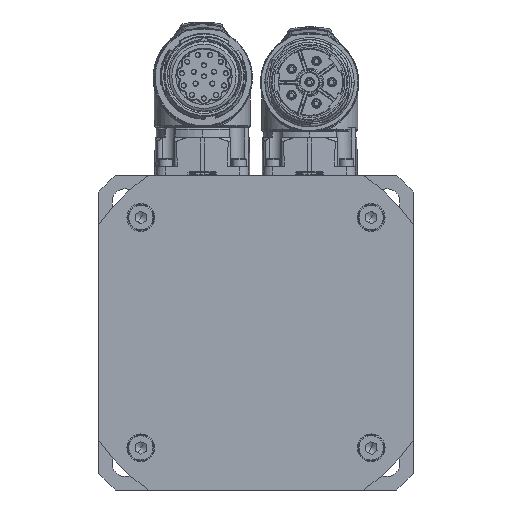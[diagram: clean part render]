
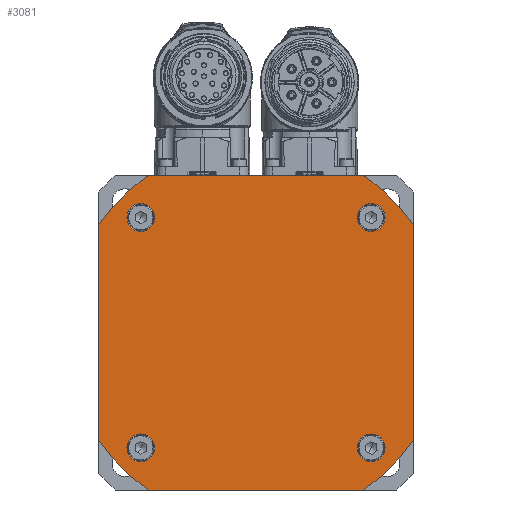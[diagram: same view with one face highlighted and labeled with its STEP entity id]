
A CAD part, left-side view. The second image highlights one B-rep face of the part: STEP entity #3081.
In plain terms, the highlighted planar face has unit normal (-1, 0, 0) as drawn and (1, 0, 0) by its records, which use the part's own axes.
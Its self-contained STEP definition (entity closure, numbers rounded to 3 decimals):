
#2938=CARTESIAN_POINT('Axis2P3D Location',(46.,0.,0.)) ;
#2943=CARTESIAN_POINT('Axis2P3D Location',(46.,0.,0.)) ;
#2947=CARTESIAN_POINT('Cartesian Point',(46.,-42.5,-29.086)) ;
#2949=CARTESIAN_POINT('Cartesian Point',(46.,-29.086,-42.5)) ;
#2952=CARTESIAN_POINT('Line Origine',(46.,0.,-42.5)) ;
#2956=CARTESIAN_POINT('Cartesian Point',(46.,29.086,-42.5)) ;
#2959=CARTESIAN_POINT('Axis2P3D Location',(46.,0.,0.)) ;
#2963=CARTESIAN_POINT('Cartesian Point',(46.,42.5,-29.086)) ;
#2966=CARTESIAN_POINT('Line Origine',(46.,42.5,0.)) ;
#2970=CARTESIAN_POINT('Cartesian Point',(46.,42.5,29.086)) ;
#2973=CARTESIAN_POINT('Axis2P3D Location',(46.,0.,0.)) ;
#2977=CARTESIAN_POINT('Cartesian Point',(46.,29.086,42.5)) ;
#2980=CARTESIAN_POINT('Line Origine',(46.,0.,42.5)) ;
#2984=CARTESIAN_POINT('Cartesian Point',(46.,-29.086,42.5)) ;
#2987=CARTESIAN_POINT('Axis2P3D Location',(46.,0.,0.)) ;
#2991=CARTESIAN_POINT('Cartesian Point',(46.,-42.5,29.086)) ;
#2994=CARTESIAN_POINT('Line Origine',(46.,-42.5,0.)) ;
#3009=CARTESIAN_POINT('Axis2P3D Location',(46.,-31.113,31.113)) ;
#3013=CARTESIAN_POINT('Cartesian Point',(46.,-34.863,31.113)) ;
#3015=CARTESIAN_POINT('Cartesian Point',(46.,-27.363,31.113)) ;
#3018=CARTESIAN_POINT('Axis2P3D Location',(46.,-31.113,31.113)) ;
#3027=CARTESIAN_POINT('Axis2P3D Location',(46.,-31.113,-31.113)) ;
#3031=CARTESIAN_POINT('Cartesian Point',(46.,-34.863,-31.113)) ;
#3033=CARTESIAN_POINT('Cartesian Point',(46.,-27.363,-31.113)) ;
#3036=CARTESIAN_POINT('Axis2P3D Location',(46.,-31.113,-31.113)) ;
#3045=CARTESIAN_POINT('Axis2P3D Location',(46.,31.113,31.113)) ;
#3049=CARTESIAN_POINT('Cartesian Point',(46.,34.863,31.113)) ;
#3051=CARTESIAN_POINT('Cartesian Point',(46.,27.363,31.113)) ;
#3054=CARTESIAN_POINT('Axis2P3D Location',(46.,31.113,31.113)) ;
#3063=CARTESIAN_POINT('Axis2P3D Location',(46.,31.113,-31.113)) ;
#3067=CARTESIAN_POINT('Cartesian Point',(46.,34.863,-31.113)) ;
#3069=CARTESIAN_POINT('Cartesian Point',(46.,27.363,-31.113)) ;
#3072=CARTESIAN_POINT('Axis2P3D Location',(46.,31.113,-31.113)) ;
#2939=DIRECTION('Axis2P3D Direction',(1.,0.,0.)) ;
#2940=DIRECTION('Axis2P3D XDirection',(0.,1.,0.)) ;
#2944=DIRECTION('Axis2P3D Direction',(1.,0.,0.)) ;
#2953=DIRECTION('Vector Direction',(0.,-1.,0.)) ;
#2960=DIRECTION('Axis2P3D Direction',(1.,0.,0.)) ;
#2967=DIRECTION('Vector Direction',(0.,0.,1.)) ;
#2974=DIRECTION('Axis2P3D Direction',(1.,0.,0.)) ;
#2981=DIRECTION('Vector Direction',(0.,1.,0.)) ;
#2988=DIRECTION('Axis2P3D Direction',(1.,0.,0.)) ;
#2995=DIRECTION('Vector Direction',(0.,0.,-1.)) ;
#3010=DIRECTION('Axis2P3D Direction',(1.,0.,0.)) ;
#3019=DIRECTION('Axis2P3D Direction',(1.,0.,0.)) ;
#3028=DIRECTION('Axis2P3D Direction',(1.,0.,0.)) ;
#3037=DIRECTION('Axis2P3D Direction',(1.,0.,0.)) ;
#3046=DIRECTION('Axis2P3D Direction',(1.,0.,0.)) ;
#3055=DIRECTION('Axis2P3D Direction',(1.,0.,0.)) ;
#3064=DIRECTION('Axis2P3D Direction',(1.,0.,0.)) ;
#3073=DIRECTION('Axis2P3D Direction',(1.,0.,0.)) ;
#2941=AXIS2_PLACEMENT_3D('Plane Axis2P3D',#2938,#2939,#2940) ;
#2945=AXIS2_PLACEMENT_3D('Circle Axis2P3D',#2943,#2944,$) ;
#2961=AXIS2_PLACEMENT_3D('Circle Axis2P3D',#2959,#2960,$) ;
#2975=AXIS2_PLACEMENT_3D('Circle Axis2P3D',#2973,#2974,$) ;
#2989=AXIS2_PLACEMENT_3D('Circle Axis2P3D',#2987,#2988,$) ;
#3011=AXIS2_PLACEMENT_3D('Circle Axis2P3D',#3009,#3010,$) ;
#3020=AXIS2_PLACEMENT_3D('Circle Axis2P3D',#3018,#3019,$) ;
#3029=AXIS2_PLACEMENT_3D('Circle Axis2P3D',#3027,#3028,$) ;
#3038=AXIS2_PLACEMENT_3D('Circle Axis2P3D',#3036,#3037,$) ;
#3047=AXIS2_PLACEMENT_3D('Circle Axis2P3D',#3045,#3046,$) ;
#3056=AXIS2_PLACEMENT_3D('Circle Axis2P3D',#3054,#3055,$) ;
#3065=AXIS2_PLACEMENT_3D('Circle Axis2P3D',#3063,#3064,$) ;
#3074=AXIS2_PLACEMENT_3D('Circle Axis2P3D',#3072,#3073,$) ;
#3000=ORIENTED_EDGE('Oriented Edge',*,*,#2951,.T.) ;
#3001=ORIENTED_EDGE('Oriented Edge',*,*,#2958,.T.) ;
#3002=ORIENTED_EDGE('Oriented Edge',*,*,#2965,.T.) ;
#3003=ORIENTED_EDGE('Oriented Edge',*,*,#2972,.T.) ;
#3004=ORIENTED_EDGE('Oriented Edge',*,*,#2979,.T.) ;
#3005=ORIENTED_EDGE('Oriented Edge',*,*,#2986,.T.) ;
#3006=ORIENTED_EDGE('Oriented Edge',*,*,#2993,.T.) ;
#3007=ORIENTED_EDGE('Oriented Edge',*,*,#2998,.T.) ;
#3024=ORIENTED_EDGE('Oriented Edge',*,*,#3017,.F.) ;
#3025=ORIENTED_EDGE('Oriented Edge',*,*,#3022,.F.) ;
#3042=ORIENTED_EDGE('Oriented Edge',*,*,#3035,.F.) ;
#3043=ORIENTED_EDGE('Oriented Edge',*,*,#3040,.F.) ;
#3060=ORIENTED_EDGE('Oriented Edge',*,*,#3053,.F.) ;
#3061=ORIENTED_EDGE('Oriented Edge',*,*,#3058,.F.) ;
#3078=ORIENTED_EDGE('Oriented Edge',*,*,#3071,.F.) ;
#3079=ORIENTED_EDGE('Oriented Edge',*,*,#3076,.F.) ;
#3026=FACE_BOUND('Face Bound',#3023,.T.) ;
#3044=FACE_BOUND('Face Bound',#3041,.T.) ;
#3062=FACE_BOUND('Face Bound',#3059,.T.) ;
#3080=FACE_BOUND('Face Bound',#3077,.T.) ;
#2954=VECTOR('Line Direction',#2953,1.) ;
#2968=VECTOR('Line Direction',#2967,1.) ;
#2982=VECTOR('Line Direction',#2981,1.) ;
#2996=VECTOR('Line Direction',#2995,1.) ;
#3081=ADVANCED_FACE('',(#3008,#3026,#3044,#3062,#3080),#2942,.T.) ;
#2946=CIRCLE('generated circle',#2945,51.5) ;
#2962=CIRCLE('generated circle',#2961,51.5) ;
#2976=CIRCLE('generated circle',#2975,51.5) ;
#2990=CIRCLE('generated circle',#2989,51.5) ;
#3012=CIRCLE('generated circle',#3011,3.75) ;
#3021=CIRCLE('generated circle',#3020,3.75) ;
#3030=CIRCLE('generated circle',#3029,3.75) ;
#3039=CIRCLE('generated circle',#3038,3.75) ;
#3048=CIRCLE('generated circle',#3047,3.75) ;
#3057=CIRCLE('generated circle',#3056,3.75) ;
#3066=CIRCLE('generated circle',#3065,3.75) ;
#3075=CIRCLE('generated circle',#3074,3.75) ;
#2951=EDGE_CURVE('',#2948,#2950,#2946,.T.) ;
#2958=EDGE_CURVE('',#2950,#2957,#2955,.F.) ;
#2965=EDGE_CURVE('',#2957,#2964,#2962,.T.) ;
#2972=EDGE_CURVE('',#2964,#2971,#2969,.T.) ;
#2979=EDGE_CURVE('',#2971,#2978,#2976,.T.) ;
#2986=EDGE_CURVE('',#2978,#2985,#2983,.F.) ;
#2993=EDGE_CURVE('',#2985,#2992,#2990,.T.) ;
#2998=EDGE_CURVE('',#2992,#2948,#2997,.T.) ;
#3017=EDGE_CURVE('',#3014,#3016,#3012,.T.) ;
#3022=EDGE_CURVE('',#3016,#3014,#3021,.T.) ;
#3035=EDGE_CURVE('',#3032,#3034,#3030,.T.) ;
#3040=EDGE_CURVE('',#3034,#3032,#3039,.T.) ;
#3053=EDGE_CURVE('',#3050,#3052,#3048,.T.) ;
#3058=EDGE_CURVE('',#3052,#3050,#3057,.T.) ;
#3071=EDGE_CURVE('',#3068,#3070,#3066,.T.) ;
#3076=EDGE_CURVE('',#3070,#3068,#3075,.T.) ;
#2999=EDGE_LOOP('Oriented Loop',(#3000,#3001,#3002,#3003,#3004,#3005,#3006,#3007)) ;
#3023=EDGE_LOOP('Oriented Loop',(#3024,#3025)) ;
#3041=EDGE_LOOP('Oriented Loop',(#3042,#3043)) ;
#3059=EDGE_LOOP('Oriented Loop',(#3060,#3061)) ;
#3077=EDGE_LOOP('Oriented Loop',(#3078,#3079)) ;
#3008=FACE_OUTER_BOUND('Face Bound',#2999,.T.) ;
#2955=LINE('Line',#2952,#2954) ;
#2969=LINE('Line',#2966,#2968) ;
#2983=LINE('Line',#2980,#2982) ;
#2997=LINE('Line',#2994,#2996) ;
#2942=PLANE('Plane',#2941) ;
#2948=VERTEX_POINT('Vertex Point',#2947) ;
#2950=VERTEX_POINT('Vertex Point',#2949) ;
#2957=VERTEX_POINT('Vertex Point',#2956) ;
#2964=VERTEX_POINT('Vertex Point',#2963) ;
#2971=VERTEX_POINT('Vertex Point',#2970) ;
#2978=VERTEX_POINT('Vertex Point',#2977) ;
#2985=VERTEX_POINT('Vertex Point',#2984) ;
#2992=VERTEX_POINT('Vertex Point',#2991) ;
#3014=VERTEX_POINT('Vertex Point',#3013) ;
#3016=VERTEX_POINT('Vertex Point',#3015) ;
#3032=VERTEX_POINT('Vertex Point',#3031) ;
#3034=VERTEX_POINT('Vertex Point',#3033) ;
#3050=VERTEX_POINT('Vertex Point',#3049) ;
#3052=VERTEX_POINT('Vertex Point',#3051) ;
#3068=VERTEX_POINT('Vertex Point',#3067) ;
#3070=VERTEX_POINT('Vertex Point',#3069) ;
